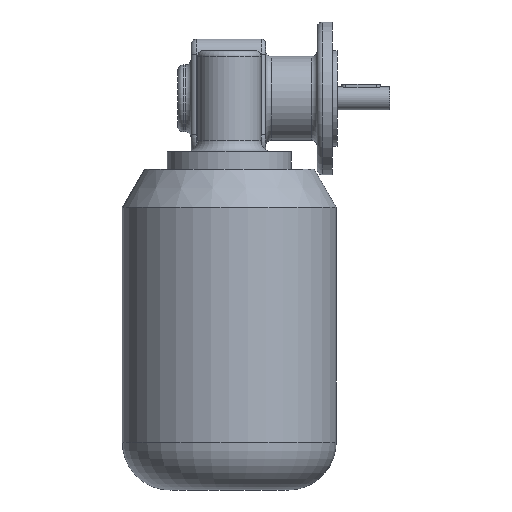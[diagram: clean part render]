
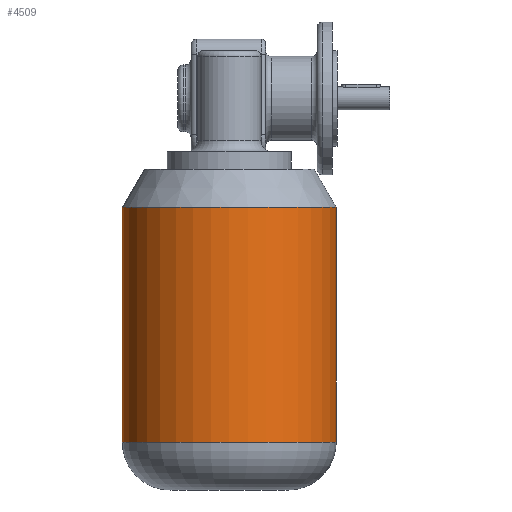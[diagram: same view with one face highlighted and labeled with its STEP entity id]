
A CAD part, front view. The second image highlights one B-rep face of the part: STEP entity #4509.
In plain terms, the highlighted cylindrical face has radius 56 mm (diameter 112 mm), a partial arc.
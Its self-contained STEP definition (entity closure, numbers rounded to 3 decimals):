
#592 = FACE_OUTER_BOUND ( 'NONE', #4498, .T. ) ;
#597 = CARTESIAN_POINT ( 'NONE',  ( 0., 1.107, -168. ) ) ;
#610 = DIRECTION ( 'NONE',  ( 0., 0., 1. ) ) ;
#611 = VECTOR ( 'NONE', #610, 1000. ) ;
#612 = CARTESIAN_POINT ( 'NONE',  ( 0., -54.893, -168. ) ) ;
#613 = LINE ( 'NONE', #612, #611 ) ;
#627 = DIRECTION ( 'NONE',  ( 0., -1., 0. ) ) ;
#628 = DIRECTION ( 'NONE',  ( 0., 0., 1. ) ) ;
#629 = CARTESIAN_POINT ( 'NONE',  ( 0., 1.107, -143. ) ) ;
#630 = AXIS2_PLACEMENT_3D ( 'NONE', #629, #628, #627 ) ;
#631 = CIRCLE ( 'NONE', #630, 56. ) ;
#635 = DIRECTION ( 'NONE',  ( 0., -1., 0. ) ) ;
#636 = DIRECTION ( 'NONE',  ( 0., 0., 1. ) ) ;
#637 = AXIS2_PLACEMENT_3D ( 'NONE', #597, #636, #635 ) ;
#639 = CYLINDRICAL_SURFACE ( 'NONE', #637, 56. ) ;
#685 = DIRECTION ( 'NONE',  ( 0., -1., 0. ) ) ;
#686 = DIRECTION ( 'NONE',  ( 0., 0., -1. ) ) ;
#687 = CARTESIAN_POINT ( 'NONE',  ( 0., 1.107, -20. ) ) ;
#688 = AXIS2_PLACEMENT_3D ( 'NONE', #687, #686, #685 ) ;
#689 = CIRCLE ( 'NONE', #688, 56. ) ;
#856 = CARTESIAN_POINT ( 'NONE',  ( 0., -54.893, -143. ) ) ;
#862 = CARTESIAN_POINT ( 'NONE',  ( 0., 57.107, -143. ) ) ;
#878 = CARTESIAN_POINT ( 'NONE',  ( 0., 57.107, -20. ) ) ;
#1062 = DIRECTION ( 'NONE',  ( 0., 0., 1. ) ) ;
#1063 = VECTOR ( 'NONE', #1062, 1000. ) ;
#1064 = CARTESIAN_POINT ( 'NONE',  ( 0., 57.107, -168. ) ) ;
#1065 = LINE ( 'NONE', #1064, #1063 ) ;
#1066 = CARTESIAN_POINT ( 'NONE',  ( 0., -54.893, -20. ) ) ;
#4484 = ORIENTED_EDGE ( 'NONE', *, *, #4676, .F. ) ;
#4497 = EDGE_CURVE ( 'NONE', #4620, #4674, #613, .T. ) ;
#4498 = EDGE_LOOP ( 'NONE', ( #4484, #4511, #4513, #4499 ) ) ;
#4499 = ORIENTED_EDGE ( 'NONE', *, *, #4517, .T. ) ;
#4509 = ADVANCED_FACE ( 'NONE', ( #592 ), #639, .T. ) ;
#4511 = ORIENTED_EDGE ( 'NONE', *, *, #4512, .T. ) ;
#4512 = EDGE_CURVE ( 'NONE', #4617, #4620, #631, .T. ) ;
#4513 = ORIENTED_EDGE ( 'NONE', *, *, #4497, .T. ) ;
#4517 = EDGE_CURVE ( 'NONE', #4674, #4608, #689, .T. ) ;
#4608 = VERTEX_POINT ( 'NONE', #878 ) ;
#4617 = VERTEX_POINT ( 'NONE', #862 ) ;
#4620 = VERTEX_POINT ( 'NONE', #856 ) ;
#4674 = VERTEX_POINT ( 'NONE', #1066 ) ;
#4676 = EDGE_CURVE ( 'NONE', #4617, #4608, #1065, .T. ) ;
